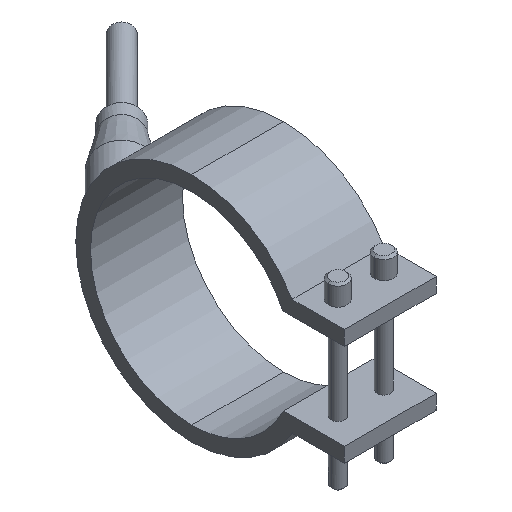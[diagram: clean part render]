
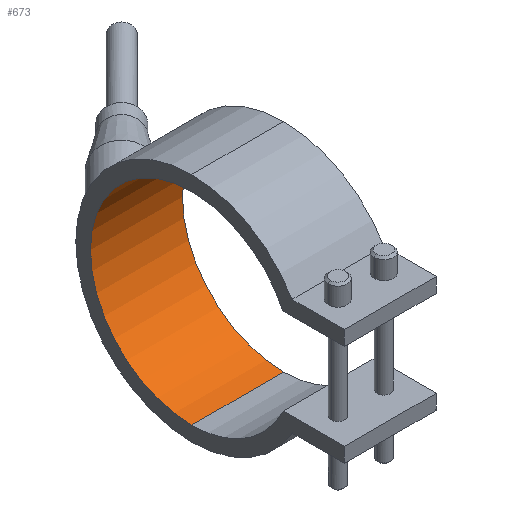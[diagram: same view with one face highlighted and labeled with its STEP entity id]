
A CAD part, isometric view. The second image highlights one B-rep face of the part: STEP entity #673.
In plain terms, the highlighted cylindrical face has radius 27.5 mm (diameter 55 mm), a partial arc.
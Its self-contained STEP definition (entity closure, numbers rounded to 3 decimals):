
#343=CARTESIAN_POINT('Vertex',(12.5,0.,27.5)) ;
#348=CARTESIAN_POINT('Axis2P3D Location',(12.5,0.,0.)) ;
#352=CARTESIAN_POINT('Vertex',(12.5,0.,-27.5)) ;
#459=CARTESIAN_POINT('Vertex',(-12.5,0.,-27.5)) ;
#462=CARTESIAN_POINT('Axis2P3D Location',(-12.5,0.,0.)) ;
#466=CARTESIAN_POINT('Vertex',(-12.5,0.,27.5)) ;
#645=CARTESIAN_POINT('Line Origine',(12.5,0.,27.5)) ;
#657=CARTESIAN_POINT('Axis2P3D Location',(12.5,0.,0.)) ;
#662=CARTESIAN_POINT('Line Origine',(12.5,0.,-27.5)) ;
#349=DIRECTION('Axis2P3D Direction',(1.,0.,0.)) ;
#463=DIRECTION('Axis2P3D Direction',(1.,0.,0.)) ;
#646=DIRECTION('Vector Direction',(1.,0.,0.)) ;
#658=DIRECTION('Axis2P3D Direction',(1.,0.,-0.)) ;
#659=DIRECTION('Axis2P3D XDirection',(0.,0.,-1.)) ;
#663=DIRECTION('Vector Direction',(1.,0.,0.)) ;
#350=AXIS2_PLACEMENT_3D('Circle Axis2P3D',#348,#349,$) ;
#464=AXIS2_PLACEMENT_3D('Circle Axis2P3D',#462,#463,$) ;
#660=AXIS2_PLACEMENT_3D('Cylinder Axis2P3D',#657,#658,#659) ;
#668=ORIENTED_EDGE('',*,*,#354,.T.) ;
#669=ORIENTED_EDGE('',*,*,#649,.T.) ;
#670=ORIENTED_EDGE('',*,*,#468,.F.) ;
#671=ORIENTED_EDGE('',*,*,#666,.T.) ;
#647=VECTOR('Line Direction',#646,1.) ;
#664=VECTOR('Line Direction',#663,1.) ;
#673=ADVANCED_FACE('29055025',(#672),#661,.F.) ;
#351=CIRCLE('generated circle',#350,27.5) ;
#465=CIRCLE('generated circle',#464,27.5) ;
#661=CYLINDRICAL_SURFACE('generated cylinder',#660,27.5) ;
#354=EDGE_CURVE('',#353,#344,#351,.T.) ;
#468=EDGE_CURVE('',#460,#467,#465,.T.) ;
#649=EDGE_CURVE('',#344,#467,#648,.F.) ;
#666=EDGE_CURVE('',#460,#353,#665,.T.) ;
#667=EDGE_LOOP('',(#668,#669,#670,#671)) ;
#672=FACE_OUTER_BOUND('',#667,.T.) ;
#648=LINE('Line',#645,#647) ;
#665=LINE('Line',#662,#664) ;
#344=VERTEX_POINT('',#343) ;
#353=VERTEX_POINT('',#352) ;
#460=VERTEX_POINT('',#459) ;
#467=VERTEX_POINT('',#466) ;
